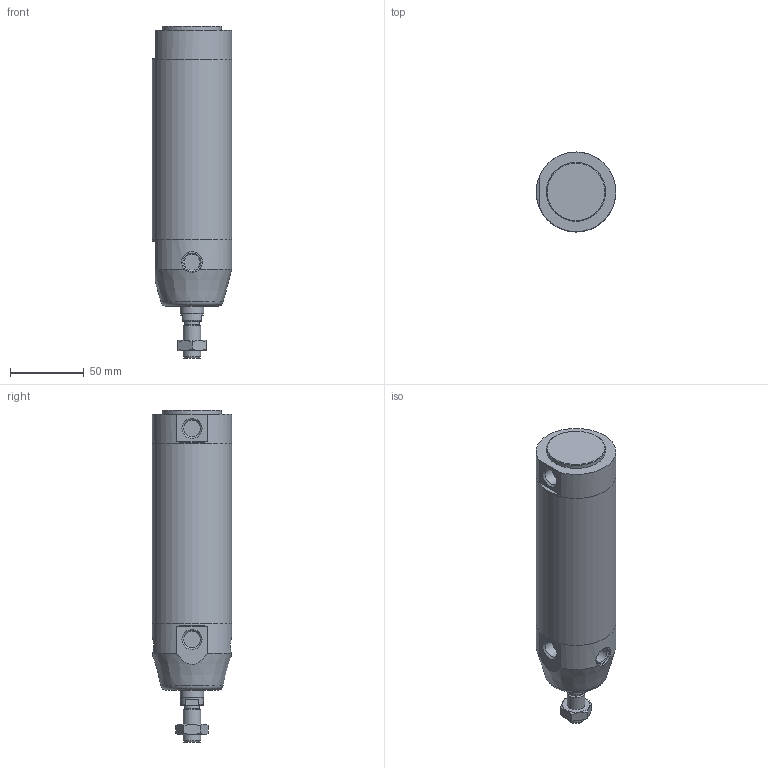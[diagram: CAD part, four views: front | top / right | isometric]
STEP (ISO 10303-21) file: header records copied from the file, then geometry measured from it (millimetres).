
FILE_DESCRIPTION(/* description */ (''),/* implementation_level */ '2;1');
FILE_NAME(/* name */ 'I:\Area Tecnica\Documenti\A-Manieri\_Inventor\12X\12X#E_###_####_#_#\12XAE_050_0080_#_#.stp',/* time_stamp */ '2015-05-08T13:40:19+02:00',/* author */ ('maniean1'),/* organization */ ('Pneumax S.p.A.'),/* preprocessor_version */ 'ST-DEVELOPER v15.2',/* originating_system */ 'Autodesk Inventor 2014',/* authorisation */ '');
FILE_SCHEMA (('AUTOMOTIVE_DESIGN { 1 0 10303 214 3 1 1 }'));
Length unit declared in the file: millimetre
Products named in the file (6): C1250_619-0080; 12X50_622; S12X50_0080; 12X_50_11; 12X50_611; 12XAE_050_0080_#_#
Bounding box: 54 x 54 x 225 mm (x, y, z)
Volume: 280922.3 mm3; surface area: 81742.9 mm2
Topology: 5 solids, 5 shells, 65 faces, 132 edges, 84 vertices
Faces by surface type: plane 33, cylinder 18, cone 13, torus 1
Full cylindrical faces by diameter (mm): 10.2 x1, 10.9 x2, 11.4 x2, 12 x2, 14 x1, 14.1 x2, 15.6 x1, 16 x1, 40 x1, 50 x2, 54 x3
Entity records: 1691 total; most frequent: CARTESIAN_POINT 368, DIRECTION 279, ORIENTED_EDGE 190, AXIS2_PLACEMENT_3D 129, EDGE_LOOP 108, EDGE_CURVE 95, VERTEX_POINT 77, ADVANCED_FACE 65
